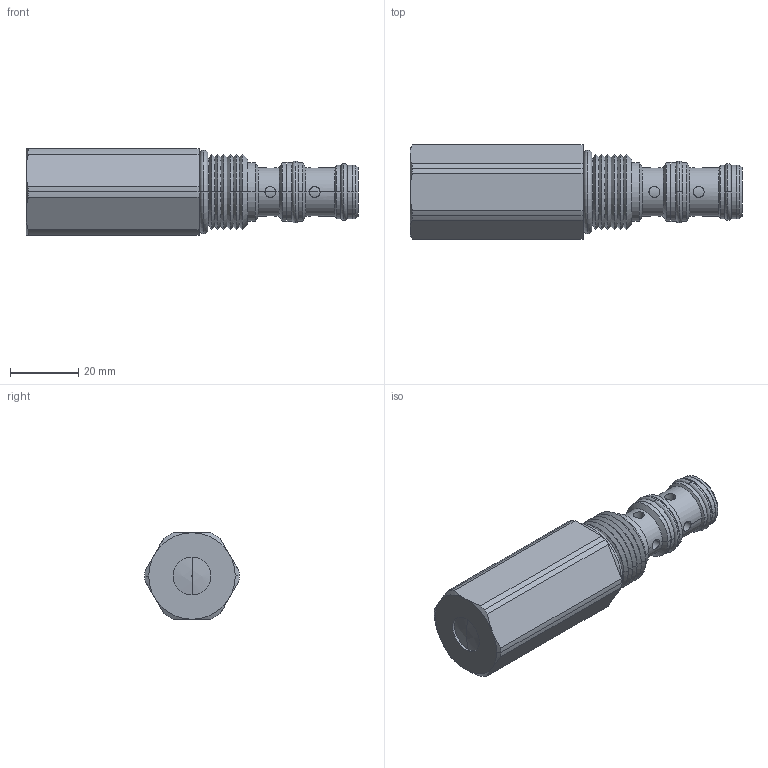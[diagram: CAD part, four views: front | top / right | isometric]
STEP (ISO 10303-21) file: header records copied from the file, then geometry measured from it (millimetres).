
FILE_DESCRIPTION((''),'2;1');
FILE_NAME('U:\Solid model CD\Solid model full\Mechanical\STEP\DFPWP0T-3D Full.stp','2008-07-29T09:24:21',('Dan'),(''),'Autodesk Inventor 9','Autodesk Inventor 9','');
FILE_SCHEMA(('AUTOMOTIVE_DESIGN { 1 0 10303 214 1 1 1 1 }'));
Length unit declared in the file: inch
Products named in the file (7): DFPWP0T-3D Full; DFPWP0T-3D Full1; DFPWP0T-3D Full2; DFPWP0T-3D Full3; DFPWP0T-3D Full4; DFPWP0T-3D Full5; DFPWP0T-3D Full6
Assembly tree (6 placements, depth 2):
  DFPWP0T-3D Full
    DFPWP0T-3D Full1
    DFPWP0T-3D Full2
    DFPWP0T-3D Full3
    DFPWP0T-3D Full4
    DFPWP0T-3D Full5
    DFPWP0T-3D Full6
Bounding box: 97.49 x 27.69 x 25.4 mm (x, y, z)
Volume: 38922.8 mm3; surface area: 10443 mm2
Topology: 6 solids, 7 shells, 155 faces, 338 edges, 204 vertices
Faces by surface type: cylinder 64, cone 46, bspline 22, plane 17, torus 4, sphere 2
Entity records: 5318 total; most frequent: CARTESIAN_POINT 1810, DIRECTION 728, ORIENTED_EDGE 676, EDGE_CURVE 338, AXIS2_PLACEMENT_3D 304, VERTEX_POINT 204, EDGE_LOOP 172, CIRCLE 158
